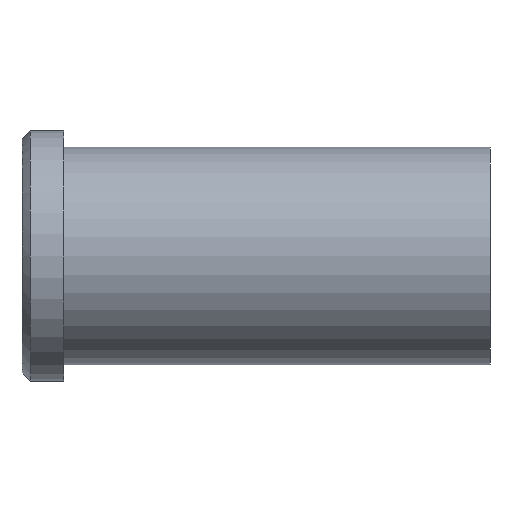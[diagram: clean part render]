
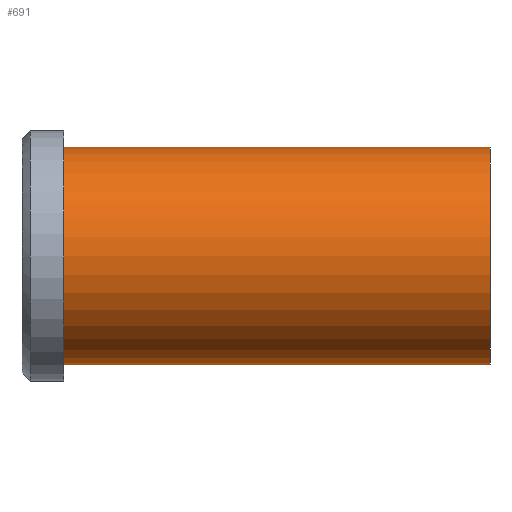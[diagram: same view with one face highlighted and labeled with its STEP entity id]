
A CAD part, front view. The second image highlights one B-rep face of the part: STEP entity #691.
In plain terms, the highlighted cylindrical face has radius 13 mm (diameter 26 mm), a partial arc.
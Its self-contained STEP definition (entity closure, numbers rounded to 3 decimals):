
#501=CARTESIAN_POINT('Vertex',(0.,0.,-13.)) ;
#506=CARTESIAN_POINT('Axis2P3D Location',(0.,0.,0.)) ;
#510=CARTESIAN_POINT('Vertex',(0.,-13.,0.)) ;
#513=CARTESIAN_POINT('Axis2P3D Location',(0.,0.,0.)) ;
#517=CARTESIAN_POINT('Vertex',(0.,0.,13.)) ;
#631=CARTESIAN_POINT('Line Origine',(51.,0.,13.)) ;
#635=CARTESIAN_POINT('Vertex',(51.,0.,13.)) ;
#649=CARTESIAN_POINT('Vertex',(51.,0.,-13.)) ;
#652=CARTESIAN_POINT('Line Origine',(51.,0.,-13.)) ;
#666=CARTESIAN_POINT('Axis2P3D Location',(51.,0.,0.)) ;
#671=CARTESIAN_POINT('Axis2P3D Location',(51.,0.,0.)) ;
#675=CARTESIAN_POINT('Vertex',(51.,-13.,0.)) ;
#678=CARTESIAN_POINT('Axis2P3D Location',(51.,0.,0.)) ;
#507=DIRECTION('Axis2P3D Direction',(1.,0.,-0.)) ;
#514=DIRECTION('Axis2P3D Direction',(1.,0.,-0.)) ;
#632=DIRECTION('Vector Direction',(-1.,0.,0.)) ;
#653=DIRECTION('Vector Direction',(-1.,0.,0.)) ;
#667=DIRECTION('Axis2P3D Direction',(-1.,-0.,-0.)) ;
#668=DIRECTION('Axis2P3D XDirection',(0.,0.,-1.)) ;
#672=DIRECTION('Axis2P3D Direction',(-1.,-0.,-0.)) ;
#679=DIRECTION('Axis2P3D Direction',(-1.,-0.,-0.)) ;
#508=AXIS2_PLACEMENT_3D('Circle Axis2P3D',#506,#507,$) ;
#515=AXIS2_PLACEMENT_3D('Circle Axis2P3D',#513,#514,$) ;
#669=AXIS2_PLACEMENT_3D('Cylinder Axis2P3D',#666,#667,#668) ;
#673=AXIS2_PLACEMENT_3D('Circle Axis2P3D',#671,#672,$) ;
#680=AXIS2_PLACEMENT_3D('Circle Axis2P3D',#678,#679,$) ;
#684=ORIENTED_EDGE('',*,*,#656,.T.) ;
#685=ORIENTED_EDGE('',*,*,#677,.F.) ;
#686=ORIENTED_EDGE('',*,*,#682,.F.) ;
#687=ORIENTED_EDGE('',*,*,#637,.T.) ;
#688=ORIENTED_EDGE('',*,*,#519,.T.) ;
#689=ORIENTED_EDGE('',*,*,#512,.T.) ;
#633=VECTOR('Line Direction',#632,1.) ;
#654=VECTOR('Line Direction',#653,1.) ;
#691=ADVANCED_FACE('353-18X56',(#690),#670,.T.) ;
#509=CIRCLE('generated circle',#508,13.) ;
#516=CIRCLE('generated circle',#515,13.) ;
#674=CIRCLE('generated circle',#673,13.) ;
#681=CIRCLE('generated circle',#680,13.) ;
#670=CYLINDRICAL_SURFACE('generated cylinder',#669,13.) ;
#512=EDGE_CURVE('',#511,#502,#509,.T.) ;
#519=EDGE_CURVE('',#518,#511,#516,.T.) ;
#637=EDGE_CURVE('',#636,#518,#634,.T.) ;
#656=EDGE_CURVE('',#502,#650,#655,.F.) ;
#677=EDGE_CURVE('',#676,#650,#674,.F.) ;
#682=EDGE_CURVE('',#636,#676,#681,.F.) ;
#683=EDGE_LOOP('',(#684,#685,#686,#687,#688,#689)) ;
#690=FACE_OUTER_BOUND('',#683,.T.) ;
#634=LINE('Line',#631,#633) ;
#655=LINE('Line',#652,#654) ;
#502=VERTEX_POINT('',#501) ;
#511=VERTEX_POINT('',#510) ;
#518=VERTEX_POINT('',#517) ;
#636=VERTEX_POINT('',#635) ;
#650=VERTEX_POINT('',#649) ;
#676=VERTEX_POINT('',#675) ;
